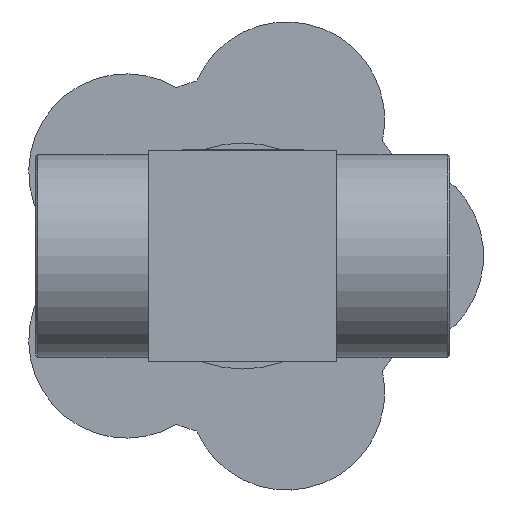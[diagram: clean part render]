
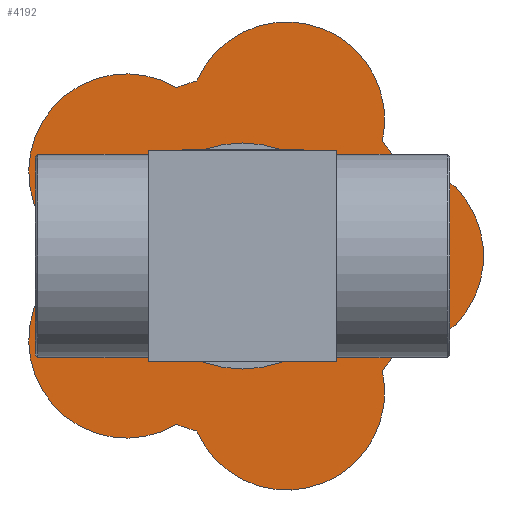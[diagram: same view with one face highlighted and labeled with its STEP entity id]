
A CAD part, front view. The second image highlights one B-rep face of the part: STEP entity #4192.
In plain terms, the highlighted planar face has unit normal (0, -1, 0).
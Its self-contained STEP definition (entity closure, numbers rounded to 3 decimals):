
#38=FACE_BOUND('',#601,.T.);
#362=FACE_OUTER_BOUND('',#600,.T.);
#600=EDGE_LOOP('',(#3440,#3441,#3442,#3443,#3444,#3445,#3446,#3447,#3448,
#3449));
#601=EDGE_LOOP('',(#3450));
#685=CIRCLE('',#4417,13.);
#687=CIRCLE('',#4420,13.);
#689=CIRCLE('',#4423,13.);
#691=CIRCLE('',#4426,13.);
#698=CIRCLE('',#4435,24.);
#699=CIRCLE('',#4437,24.);
#700=CIRCLE('',#4439,24.);
#701=CIRCLE('',#4441,24.);
#702=CIRCLE('',#4443,24.);
#703=CIRCLE('',#4445,13.);
#704=CIRCLE('',#4446,15.);
#1866=VERTEX_POINT('',#7117);
#1867=VERTEX_POINT('',#7119);
#1870=VERTEX_POINT('',#7126);
#1871=VERTEX_POINT('',#7128);
#1874=VERTEX_POINT('',#7135);
#1875=VERTEX_POINT('',#7137);
#1878=VERTEX_POINT('',#7144);
#1879=VERTEX_POINT('',#7146);
#1882=VERTEX_POINT('',#7161);
#1883=VERTEX_POINT('',#7167);
#1884=VERTEX_POINT('',#7174);
#2392=EDGE_CURVE('',#1866,#1867,#685,.T.);
#2396=EDGE_CURVE('',#1870,#1871,#687,.T.);
#2400=EDGE_CURVE('',#1874,#1875,#689,.T.);
#2404=EDGE_CURVE('',#1878,#1879,#691,.T.);
#2412=EDGE_CURVE('',#1871,#1866,#698,.T.);
#2413=EDGE_CURVE('',#1867,#1882,#699,.T.);
#2415=EDGE_CURVE('',#1875,#1870,#700,.T.);
#2417=EDGE_CURVE('',#1883,#1878,#701,.T.);
#2418=EDGE_CURVE('',#1879,#1874,#702,.T.);
#2419=EDGE_CURVE('',#1882,#1883,#703,.T.);
#2420=EDGE_CURVE('',#1884,#1884,#704,.T.);
#3440=ORIENTED_EDGE('',*,*,#2419,.F.);
#3441=ORIENTED_EDGE('',*,*,#2413,.F.);
#3442=ORIENTED_EDGE('',*,*,#2392,.F.);
#3443=ORIENTED_EDGE('',*,*,#2412,.F.);
#3444=ORIENTED_EDGE('',*,*,#2396,.F.);
#3445=ORIENTED_EDGE('',*,*,#2415,.F.);
#3446=ORIENTED_EDGE('',*,*,#2400,.F.);
#3447=ORIENTED_EDGE('',*,*,#2418,.F.);
#3448=ORIENTED_EDGE('',*,*,#2404,.F.);
#3449=ORIENTED_EDGE('',*,*,#2417,.F.);
#3450=ORIENTED_EDGE('',*,*,#2420,.F.);
#3766=PLANE('',#4444);
#4192=ADVANCED_FACE('',(#362,#38),#3766,.F.);
#4417=AXIS2_PLACEMENT_3D('',#7120,#5186,#5187);
#4420=AXIS2_PLACEMENT_3D('',#7129,#5194,#5195);
#4423=AXIS2_PLACEMENT_3D('',#7138,#5202,#5203);
#4426=AXIS2_PLACEMENT_3D('',#7147,#5210,#5211);
#4435=AXIS2_PLACEMENT_3D('',#7159,#5229,#5230);
#4437=AXIS2_PLACEMENT_3D('',#7162,#5233,#5234);
#4439=AXIS2_PLACEMENT_3D('',#7165,#5238,#5239);
#4441=AXIS2_PLACEMENT_3D('',#7169,#5243,#5244);
#4443=AXIS2_PLACEMENT_3D('',#7171,#5247,#5248);
#4444=AXIS2_PLACEMENT_3D('',#7172,#5249,#5250);
#4445=AXIS2_PLACEMENT_3D('',#7173,#5251,#5252);
#4446=AXIS2_PLACEMENT_3D('',#7175,#5253,#5254);
#5186=DIRECTION('center_axis',(0.,1.,0.));
#5187=DIRECTION('ref_axis',(-0.918,0.,0.396));
#5194=DIRECTION('center_axis',(0.,1.,0.));
#5195=DIRECTION('ref_axis',(-0.661,0.,-0.751));
#5202=DIRECTION('center_axis',(0.,1.,0.));
#5203=DIRECTION('ref_axis',(0.51,0.,-0.86));
#5210=DIRECTION('center_axis',(0.,1.,0.));
#5211=DIRECTION('ref_axis',(0.976,0.,0.219));
#5229=DIRECTION('center_axis',(0.,1.,0.));
#5230=DIRECTION('ref_axis',(1.,0.,0.));
#5233=DIRECTION('center_axis',(0.,1.,0.));
#5234=DIRECTION('ref_axis',(1.,0.,0.));
#5238=DIRECTION('center_axis',(0.,1.,0.));
#5239=DIRECTION('ref_axis',(1.,0.,0.));
#5243=DIRECTION('center_axis',(0.,1.,0.));
#5244=DIRECTION('ref_axis',(1.,0.,0.));
#5247=DIRECTION('center_axis',(0.,1.,0.));
#5248=DIRECTION('ref_axis',(1.,0.,0.));
#5249=DIRECTION('center_axis',(0.,1.,0.));
#5250=DIRECTION('ref_axis',(0.,0.,1.));
#5251=DIRECTION('center_axis',(0.,1.,0.));
#5252=DIRECTION('ref_axis',(0.093,0.,0.996));
#5253=DIRECTION('center_axis',(0.,-1.,0.));
#5254=DIRECTION('ref_axis',(-1.,0.,0.));
#7117=CARTESIAN_POINT('',(-15.38,53.697,23.221));
#7119=CARTESIAN_POINT('',(9.24,53.697,15.222));
#7120=CARTESIAN_POINT('Origin',(-3.444,53.697,18.07));
#7126=CARTESIAN_POINT('',(-33.274,53.697,1.408));
#7128=CARTESIAN_POINT('',(-18.058,53.697,22.351));
#7129=CARTESIAN_POINT('Origin',(-24.687,53.697,11.168));
#7135=CARTESIAN_POINT('',(-18.058,53.697,-22.351));
#7137=CARTESIAN_POINT('',(-33.274,53.697,-1.408));
#7138=CARTESIAN_POINT('Origin',(-24.687,53.697,-11.168));
#7144=CARTESIAN_POINT('',(9.24,53.697,-15.222));
#7146=CARTESIAN_POINT('',(-15.38,53.697,-23.221));
#7147=CARTESIAN_POINT('Origin',(-3.444,53.697,-18.07));
#7159=CARTESIAN_POINT('Origin',(-9.315,53.697,0.));
#7161=CARTESIAN_POINT('',(10.895,53.697,12.944));
#7162=CARTESIAN_POINT('Origin',(-9.315,53.697,0.));
#7165=CARTESIAN_POINT('Origin',(-9.315,53.697,0.));
#7167=CARTESIAN_POINT('',(10.895,53.697,-12.944));
#7169=CARTESIAN_POINT('Origin',(-9.315,53.697,0.));
#7171=CARTESIAN_POINT('Origin',(-9.315,53.697,0.));
#7172=CARTESIAN_POINT('Origin',(15.811,53.697,0.));
#7173=CARTESIAN_POINT('Origin',(9.685,53.697,0.));
#7174=CARTESIAN_POINT('',(5.685,53.697,0.));
#7175=CARTESIAN_POINT('Origin',(-9.315,53.697,0.));
